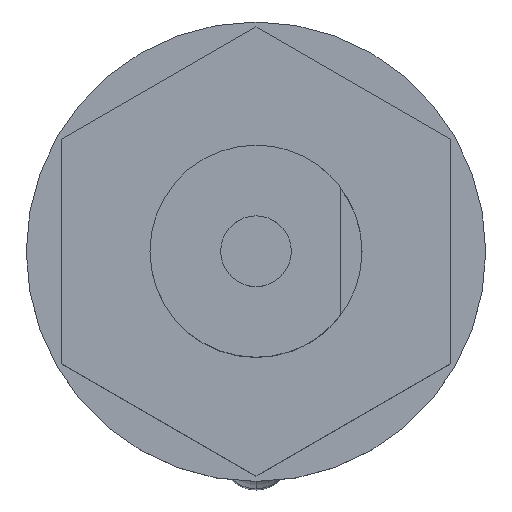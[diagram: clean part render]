
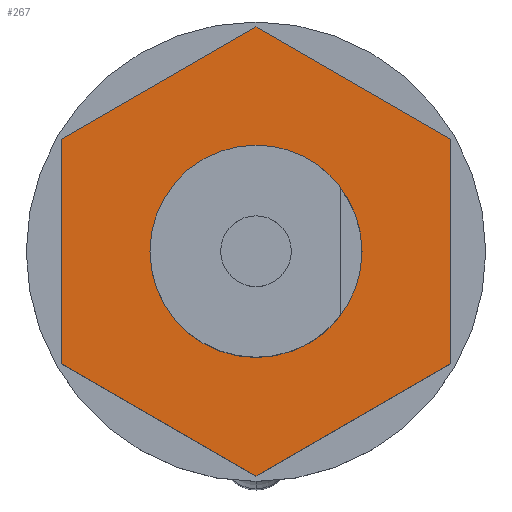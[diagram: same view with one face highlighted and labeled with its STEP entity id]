
A CAD part, top view. The second image highlights one B-rep face of the part: STEP entity #267.
In plain terms, the highlighted planar face has unit normal (0, 0, 1) as drawn and (-1, 0, 0) by its records, which use the part's own axes.
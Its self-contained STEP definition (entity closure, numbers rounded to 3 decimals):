
#42 = EDGE_CURVE ( 'NONE', #45, #265, #579, .T. ) ;
#43 = EDGE_LOOP ( 'NONE', ( #80, #81 ) ) ;
#44 = ORIENTED_EDGE ( 'NONE', *, *, #48, .T. ) ;
#45 = VERTEX_POINT ( 'NONE', #575 ) ;
#46 = EDGE_CURVE ( 'NONE', #251, #47, #574, .T. ) ;
#47 = VERTEX_POINT ( 'NONE', #570 ) ;
#48 = EDGE_CURVE ( 'NONE', #47, #45, #569, .T. ) ;
#49 = ORIENTED_EDGE ( 'NONE', *, *, #42, .T. ) ;
#80 = ORIENTED_EDGE ( 'NONE', *, *, #248, .F. ) ;
#81 = ORIENTED_EDGE ( 'NONE', *, *, #83, .F. ) ;
#83 = EDGE_CURVE ( 'NONE', #250, #249, #594, .T. ) ;
#248 = EDGE_CURVE ( 'NONE', #249, #250, #866, .T. ) ;
#249 = VERTEX_POINT ( 'NONE', #862 ) ;
#250 = VERTEX_POINT ( 'NONE', #861 ) ;
#251 = VERTEX_POINT ( 'NONE', #860 ) ;
#252 = EDGE_CURVE ( 'NONE', #258, #251, #859, .T. ) ;
#257 = ORIENTED_EDGE ( 'NONE', *, *, #46, .T. ) ;
#258 = VERTEX_POINT ( 'NONE', #850 ) ;
#259 = ORIENTED_EDGE ( 'NONE', *, *, #252, .T. ) ;
#260 = EDGE_CURVE ( 'NONE', #262, #258, #849, .T. ) ;
#261 = ORIENTED_EDGE ( 'NONE', *, *, #260, .T. ) ;
#262 = VERTEX_POINT ( 'NONE', #910 ) ;
#263 = ORIENTED_EDGE ( 'NONE', *, *, #264, .T. ) ;
#264 = EDGE_CURVE ( 'NONE', #265, #262, #909, .T. ) ;
#265 = VERTEX_POINT ( 'NONE', #905 ) ;
#267 = ADVANCED_FACE ( 'NONE', ( #900, #899 ), #898, .F. ) ;
#268 = EDGE_LOOP ( 'NONE', ( #263, #261, #259, #257, #44, #49 ) ) ;
#566 = DIRECTION ( 'NONE',  ( 0., 0.866, -0.5 ) ) ;
#567 = VECTOR ( 'NONE', #566, 1000. ) ;
#568 = CARTESIAN_POINT ( 'NONE',  ( 2.1, 0., 3.175 ) ) ;
#569 = LINE ( 'NONE', #568, #567 ) ;
#570 = CARTESIAN_POINT ( 'NONE',  ( 2.1, 0., 3.175 ) ) ;
#571 = DIRECTION ( 'NONE',  ( 0., 0.866, 0.5 ) ) ;
#572 = VECTOR ( 'NONE', #571, 1000. ) ;
#573 = CARTESIAN_POINT ( 'NONE',  ( 2.1, -2.75, 1.588 ) ) ;
#574 = LINE ( 'NONE', #573, #572 ) ;
#575 = CARTESIAN_POINT ( 'NONE',  ( 2.1, 2.75, 1.588 ) ) ;
#576 = DIRECTION ( 'NONE',  ( 0., 0., -1. ) ) ;
#577 = VECTOR ( 'NONE', #576, 1000. ) ;
#578 = CARTESIAN_POINT ( 'NONE',  ( 2.1, 2.75, 1.588 ) ) ;
#579 = LINE ( 'NONE', #578, #577 ) ;
#590 = DIRECTION ( 'NONE',  ( 0., 0., 1. ) ) ;
#591 = DIRECTION ( 'NONE',  ( -1., 0., 0. ) ) ;
#592 = CARTESIAN_POINT ( 'NONE',  ( 2.1, 0., 0. ) ) ;
#593 = AXIS2_PLACEMENT_3D ( 'NONE', #592, #591, #590 ) ;
#594 = CIRCLE ( 'NONE', #593, 1.5 ) ;
#849 = LINE ( 'NONE', #913, #912 ) ;
#850 = CARTESIAN_POINT ( 'NONE',  ( 2.1, -2.75, -1.588 ) ) ;
#856 = DIRECTION ( 'NONE',  ( 0., 0., 1. ) ) ;
#857 = VECTOR ( 'NONE', #856, 1000. ) ;
#858 = CARTESIAN_POINT ( 'NONE',  ( 2.1, -2.75, -1.588 ) ) ;
#859 = LINE ( 'NONE', #858, #857 ) ;
#860 = CARTESIAN_POINT ( 'NONE',  ( 2.1, -2.75, 1.588 ) ) ;
#861 = CARTESIAN_POINT ( 'NONE',  ( 2.1, 0., 1.5 ) ) ;
#862 = CARTESIAN_POINT ( 'NONE',  ( 2.1, 0., -1.5 ) ) ;
#863 = DIRECTION ( 'NONE',  ( 0., 0., 1. ) ) ;
#864 = DIRECTION ( 'NONE',  ( -1., 0., 0. ) ) ;
#865 = AXIS2_PLACEMENT_3D ( 'NONE', #872, #864, #863 ) ;
#866 = CIRCLE ( 'NONE', #865, 1.5 ) ;
#872 = CARTESIAN_POINT ( 'NONE',  ( 2.1, 0., 0. ) ) ;
#894 = DIRECTION ( 'NONE',  ( 0., 0., -1. ) ) ;
#895 = DIRECTION ( 'NONE',  ( 1., 0., 0. ) ) ;
#896 = CARTESIAN_POINT ( 'NONE',  ( 2.1, 5.5, 0. ) ) ;
#897 = AXIS2_PLACEMENT_3D ( 'NONE', #896, #895, #894 ) ;
#898 = PLANE ( 'NONE',  #897 ) ;
#899 = FACE_BOUND ( 'NONE', #43, .T. ) ;
#900 = FACE_OUTER_BOUND ( 'NONE', #268, .T. ) ;
#905 = CARTESIAN_POINT ( 'NONE',  ( 2.1, 2.75, -1.588 ) ) ;
#906 = DIRECTION ( 'NONE',  ( 0., -0.866, -0.5 ) ) ;
#907 = VECTOR ( 'NONE', #906, 1000. ) ;
#908 = CARTESIAN_POINT ( 'NONE',  ( 2.1, 2.75, -1.588 ) ) ;
#909 = LINE ( 'NONE', #908, #907 ) ;
#910 = CARTESIAN_POINT ( 'NONE',  ( 2.1, 0., -3.175 ) ) ;
#911 = DIRECTION ( 'NONE',  ( 0., -0.866, 0.5 ) ) ;
#912 = VECTOR ( 'NONE', #911, 1000. ) ;
#913 = CARTESIAN_POINT ( 'NONE',  ( 2.1, 0., -3.175 ) ) ;
